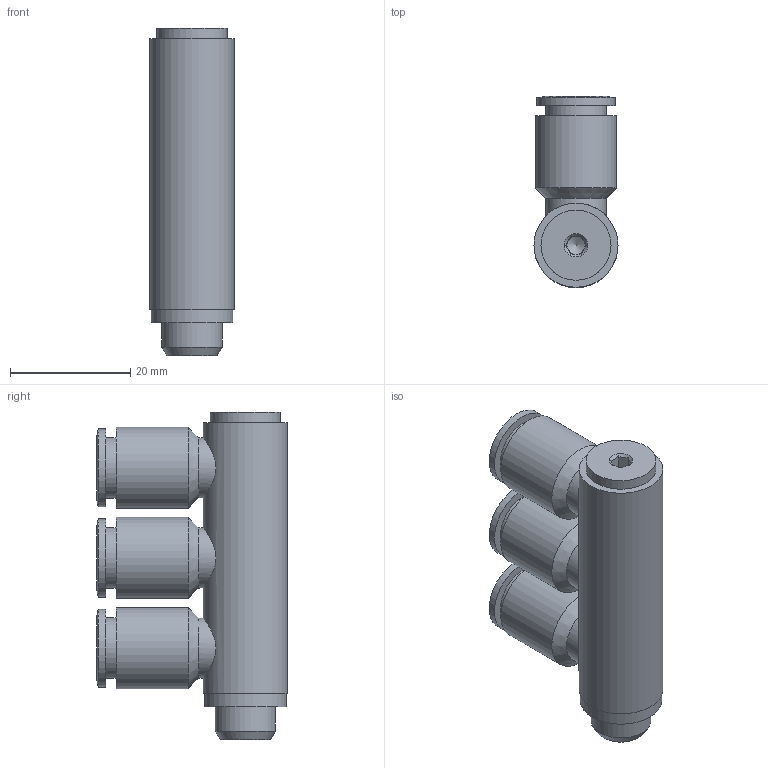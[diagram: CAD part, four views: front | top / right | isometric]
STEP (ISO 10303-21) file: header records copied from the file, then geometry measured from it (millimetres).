
FILE_DESCRIPTION((''),'2;1');
FILE_NAME('C:\Documents and Settings\rivolro1\Documenti\copia di Raccordi\PLASTICA\T34XXXX\T340818.stp','2007-11-03T09:17:24',('Rivolro1'),(''),'Autodesk Inventor 2008','Autodesk Inventor 2008','');
FILE_SCHEMA(('AUTOMOTIVE_DESIGN { 1 0 10303 214 1 1 1 1 }'));
Length unit declared in the file: millimetre
Products named in the file (1): T340818
Bounding box: 14 x 31.8 x 54.5 mm (x, y, z)
Volume: 11329.2 mm3; surface area: 7224.5 mm2
Topology: 1 solids, 1 shells, 64 faces, 124 edges, 80 vertices
Faces by surface type: plane 26, cylinder 16, bspline 15, cone 7
Full cylindrical faces by diameter (mm): 10 x4, 10.1 x3, 11.667 x1, 13 x3, 13.5 x3, 13.6 x1, 14 x1
Entity records: 1823 total; most frequent: CARTESIAN_POINT 636, DIRECTION 224, ORIENTED_EDGE 172, EDGE_LOOP 114, AXIS2_PLACEMENT_3D 103, EDGE_CURVE 86, VERTEX_POINT 74, FACE_OUTER_BOUND 64
